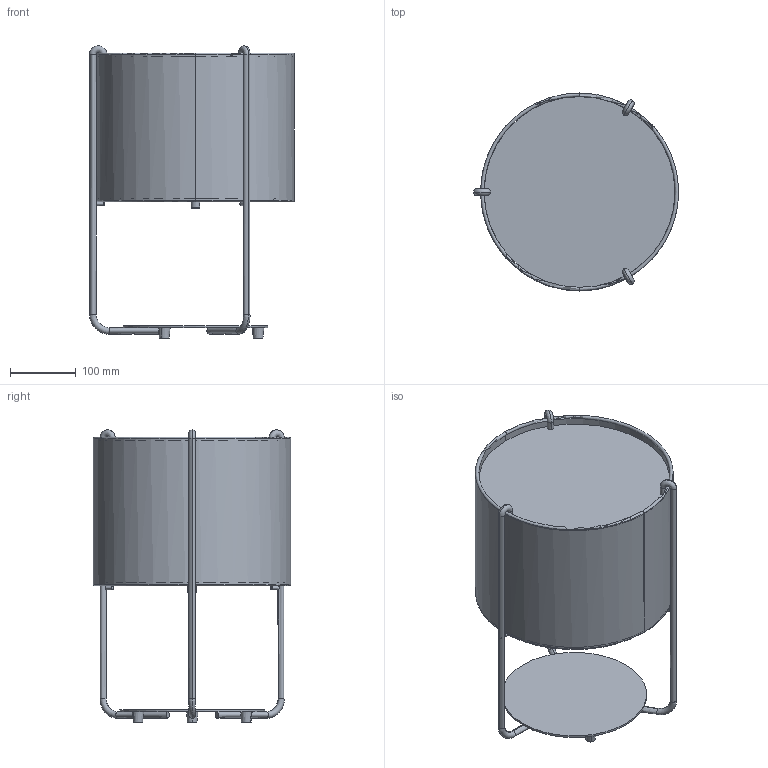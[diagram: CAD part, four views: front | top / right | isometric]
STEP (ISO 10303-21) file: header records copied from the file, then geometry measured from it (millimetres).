
FILE_DESCRIPTION(/* description */ (''),/* implementation_level */ '2;1');
FILE_NAME(/* name */ 'C:\Users\FrancoSartori\Documents\FARO\01_En Proceso\00_DRUM\03_Publicación\24020-31.stp',/* time_stamp */ '2021-05-14T09:24:21+02:00',/* author */ ('FrancoSartori'),/* organization */ (''),/* preprocessor_version */ 'ST-DEVELOPER v18.1',/* originating_system */ 'AutoCAD Mechanical',/* authorisation */ '');
FILE_SCHEMA (('AUTOMOTIVE_DESIGN { 1 0 10303 214 3 1 1 }'));
Length unit declared in the file: millimetre
Products named in the file (2): Product; 2P0522_2P0524_DRUM_SHADE - DRUM Beige shade table lamp-7305-Export
Assembly tree (1 placements, depth 2):
  Product
    2P0522_2P0524_DRUM_SHADE - DRUM Beige shade table lamp-7305-Export
Bounding box: 311.22 x 300.51 x 444 mm (x, y, z)
Volume: 855535.7 mm3; surface area: 1151640 mm2
Topology: 23 solids, 29 shells, 343 faces, 795 edges, 497 vertices
Faces by surface type: cylinder 160, plane 93, cone 52, torus 26, bspline 12
Entity records: 13663 total; most frequent: CARTESIAN_POINT 6109, ORIENTED_EDGE 1566, DIRECTION 1493, EDGE_CURVE 789, AXIS2_PLACEMENT_3D 618, VERTEX_POINT 497, EDGE_LOOP 386, FACE_OUTER_BOUND 343
